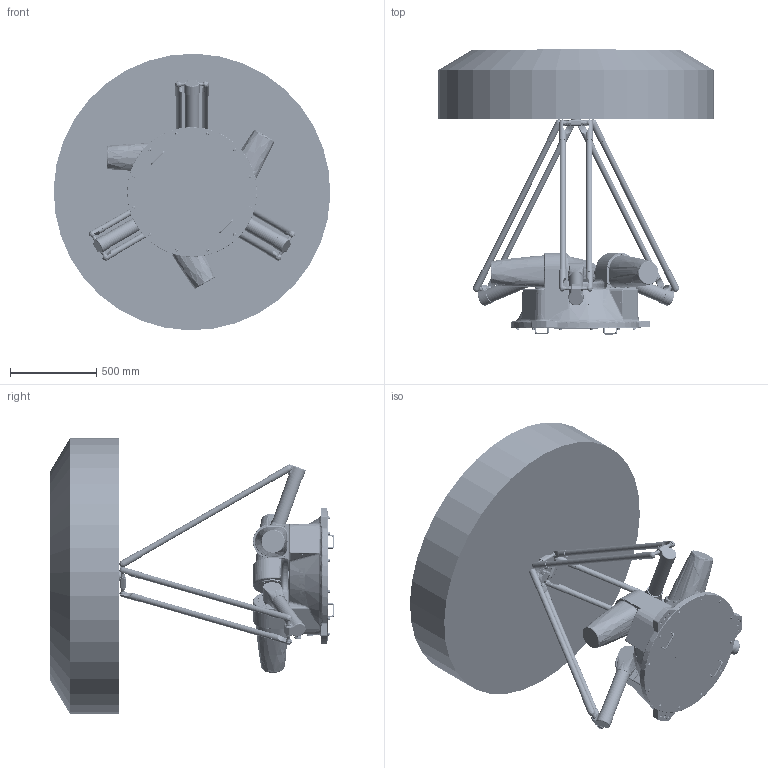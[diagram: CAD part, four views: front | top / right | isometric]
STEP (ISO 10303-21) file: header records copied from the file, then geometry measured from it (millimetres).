
FILE_DESCRIPTION (( 'STEP AP214' ), '1' );
FILE_NAME ('AP25X-1600-1543-T0-V3.0.1.STEP', '2025-02-11T06:07:06', ( '' ), ( '' ), 'SwSTEP 2.0', 'SolidWorks 2017', '' );
FILE_SCHEMA (( 'AUTOMOTIVE_DESIGN' ));
Length unit declared in the file: millimetre
Products named in the file (18): AP25X-1600-1543-T3-V1.0.0; AP25X-1600-1543-T1-V1.0.1; AP25X-1600-1543-T2-V1.0.0; AP25X-1600-1543-T4-V1.0.0; AP25X-1600-1543-T5-V3.0.1; AP25X-1600-1543-T0-V3.0.1
Assembly tree (12 placements, depth 2):
  AP25X-1600-1543-T3-V1.0.0
  AP25X-1600-1543-T4-V1.0.0
  AP25X-1600-1543-T3-V1.0.0
  AP25X-1600-1543-T3-V1.0.0
  AP25X-1600-1543-T3-V1.0.0
Bounding box: 1599.38 x 1647 x 1599.38 mm (x, y, z)
Volume: 765537862.1 mm3; surface area: 10435013.6 mm2
Topology: 23 solids, 201 shells, 5045 faces, 13532 edges, 8667 vertices
Faces by surface type: bspline 2300, plane 1292, cylinder 977, cone 382, torus 57, sphere 37
Full cylindrical faces by diameter (mm): 2.5 x6, 3 x3, 3.3 x22, 3.4 x3, 4.2 x15, 4.5 x12, 4.8 x1, 5 x82, 5.5 x4, 6 x1, 6.647 x36, 6.8 x20, 7 x9, 8 x24, 9 x42, 10 x10, 11 x8, 11.7 x7, 12.1 x1, 14 x6, 17 x1, 17.5 x1, 18 x3, 20 x6, 20.5 x6, 23.5 x1, 25 x3, 26 x1, 30 x12, 30.5 x3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
Entity records: 296844 total; most frequent: CARTESIAN_POINT 169307, ORIENTED_EDGE 19539, DIRECTION 11769, EDGE_CURVE 10273, VERTEX_POINT 7003, EDGE_LOOP 4993, B_SPLINE_CURVE_WITH_KNOTS 4606, FACE_OUTER_BOUND 4452
